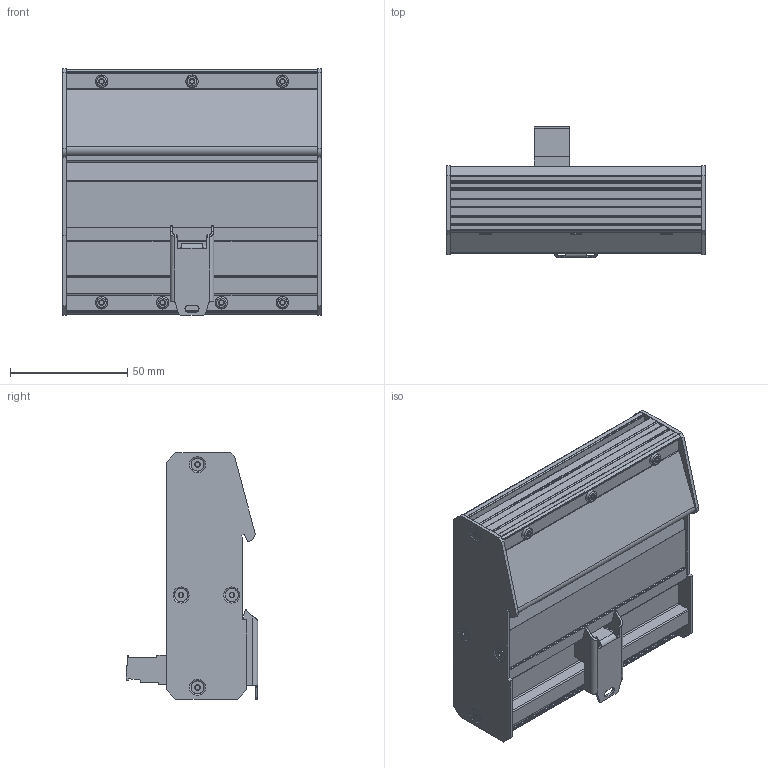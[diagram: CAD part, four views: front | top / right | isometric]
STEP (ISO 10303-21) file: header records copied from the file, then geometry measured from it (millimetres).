
FILE_DESCRIPTION(('TFLEX Exchange Step'),'2;1');
FILE_NAME('TZCA00503B_NITE-RF16-FE.stp', '2019-10-25T07:02:51+02:00',('User'),('Unknown organisation'),'TFLEX Exchange 2019.0','T-FLEX CAD','Unknown authorisation');
FILE_SCHEMA( ('AUTOMOTIVE_DESIGN { 1 0 10303 214 1 1 1 1 }') );
Length unit declared in the file: millimetre
Products named in the file (1): TZCA00503B_NITE-RF16-FE
Bounding box: 110 x 55.9 x 105 mm (x, y, z)
Volume: 316593.2 mm3; surface area: 80711.2 mm2
Topology: 2 solids, 10 shells, 3303 faces, 9420 edges, 6291 vertices
Faces by surface type: plane 2053, cylinder 873, bspline 320, torus 33, cone 19, extrusion 5
Full cylindrical faces by diameter (mm): 0.5 x128, 1.2 x11, 1.3 x3, 2.2 x3, 3 x11, 3.2 x8, 3.75 x3, 3.95 x3, 5 x7, 5.4 x7, 5.5 x8
Entity records: 130280 total; most frequent: CARTESIAN_POINT 52443, ORIENTED_EDGE 18584, DIRECTION 11411, EDGE_CURVE 9292, VERTEX_POINT 6291, B_SPLINE_CURVE_WITH_KNOTS 5153, AXIS2_PLACEMENT_3D 4283, EDGE_LOOP 3745
